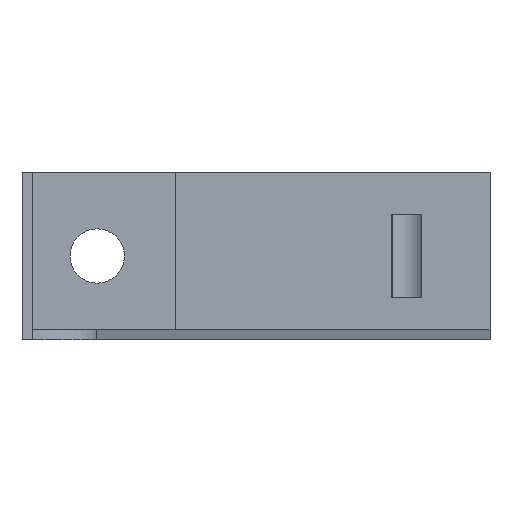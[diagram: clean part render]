
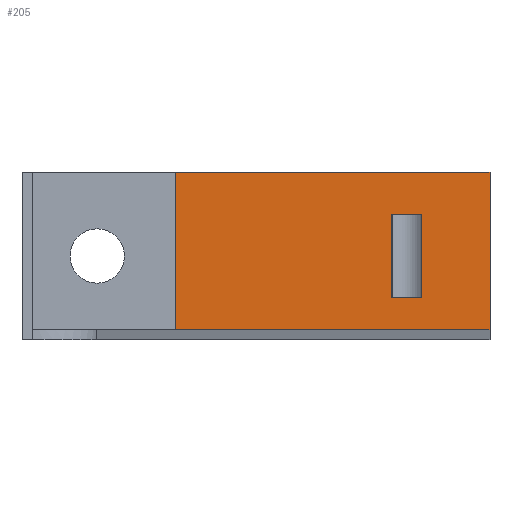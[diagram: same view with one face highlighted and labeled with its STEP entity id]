
A CAD part, left-side view. The second image highlights one B-rep face of the part: STEP entity #205.
In plain terms, the highlighted planar face has unit normal (-1, 0, 0).
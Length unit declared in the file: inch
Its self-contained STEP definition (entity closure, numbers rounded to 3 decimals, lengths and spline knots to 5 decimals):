
#205=ADVANCED_FACE('',(#425,#426),#427,.T.);
#425=FACE_OUTER_BOUND('',#953,.T.);
#426=FACE_BOUND('',#954,.T.);
#427=PLANE('',#955);
#953=EDGE_LOOP('',(#1428,#1429,#1430,#1431));
#954=EDGE_LOOP('',(#1432,#1433,#1434,#1435));
#955=AXIS2_PLACEMENT_3D('',#1436,#1437,#1438);
#1428=ORIENTED_EDGE('',*,*,#1625,.T.);
#1429=ORIENTED_EDGE('',*,*,#1640,.T.);
#1430=ORIENTED_EDGE('',*,*,#1632,.T.);
#1431=ORIENTED_EDGE('',*,*,#1660,.F.);
#1432=ORIENTED_EDGE('',*,*,#1572,.T.);
#1433=ORIENTED_EDGE('',*,*,#1593,.T.);
#1434=ORIENTED_EDGE('',*,*,#1693,.T.);
#1435=ORIENTED_EDGE('',*,*,#1588,.T.);
#1436=CARTESIAN_POINT('',(7.70277,-0.78633,0.0));
#1437=DIRECTION('',(-1.0,-0.0,0.0));
#1438=DIRECTION('',(0.0,-1.0,-0.0));
#1572=EDGE_CURVE('',#1891,#1889,#1892,.T.);
#1588=EDGE_CURVE('',#1914,#1891,#1915,.T.);
#1593=EDGE_CURVE('',#1889,#1920,#1922,.T.);
#1625=EDGE_CURVE('',#1967,#1965,#1968,.T.);
#1632=EDGE_CURVE('',#1976,#1974,#1977,.T.);
#1640=EDGE_CURVE('',#1965,#1976,#1986,.T.);
#1660=EDGE_CURVE('',#1967,#1974,#2010,.T.);
#1693=EDGE_CURVE('',#1920,#1914,#2049,.T.);
#1889=VERTEX_POINT('',#2438);
#1891=VERTEX_POINT('',#2441);
#1892=LINE('',#2442,#2443);
#1914=VERTEX_POINT('',#2485);
#1915=LINE('',#2486,#2487);
#1920=VERTEX_POINT('',#2494);
#1922=LINE('',#2497,#2498);
#1965=VERTEX_POINT('',#2574);
#1967=VERTEX_POINT('',#2577);
#1968=LINE('',#2578,#2579);
#1974=VERTEX_POINT('',#2587);
#1976=VERTEX_POINT('',#2590);
#1977=LINE('',#2591,#2592);
#1986=LINE('',#2607,#2608);
#2010=LINE('',#2655,#2656);
#2049=LINE('',#2737,#2738);
#2438=CARTESIAN_POINT('',(7.70277,-1.45091,0.3125));
#2441=CARTESIAN_POINT('',(7.70277,-1.45091,0.9375));
#2442=CARTESIAN_POINT('',(7.70277,-1.45091,0.3125));
#2443=VECTOR('',#2789,1.0);
#2485=CARTESIAN_POINT('',(7.70277,-1.22179,0.9375));
#2486=CARTESIAN_POINT('',(7.70277,-1.06134,0.9375));
#2487=VECTOR('',#2798,1.0);
#2494=CARTESIAN_POINT('',(7.70277,-1.22179,0.3125));
#2497=CARTESIAN_POINT('',(7.70277,-1.06134,0.3125));
#2498=VECTOR('',#2802,1.0);
#2574=CARTESIAN_POINT('',(7.70277,-1.96133,0.075));
#2577=CARTESIAN_POINT('',(7.70277,0.38868,0.075));
#2578=CARTESIAN_POINT('',(7.70277,-1.96133,0.075));
#2579=VECTOR('',#2822,1.0);
#2587=CARTESIAN_POINT('',(7.70277,0.38868,1.25));
#2590=CARTESIAN_POINT('',(7.70277,-1.96133,1.25));
#2591=CARTESIAN_POINT('',(7.70277,-1.96133,1.25));
#2592=VECTOR('',#2829,1.0);
#2607=CARTESIAN_POINT('',(7.70277,-1.96133,0.0));
#2608=VECTOR('',#2833,1.0);
#2655=CARTESIAN_POINT('',(7.70277,0.38868,0.0));
#2656=VECTOR('',#2839,1.0);
#2737=CARTESIAN_POINT('',(7.70277,-1.22179,0.3125));
#2738=VECTOR('',#2846,1.0);
#2789=DIRECTION('',(0.0,0.0,-1.0));
#2798=DIRECTION('',(0.0,-1.0,0.0));
#2802=DIRECTION('',(0.0,1.0,0.0));
#2822=DIRECTION('',(-0.0,-1.0,-0.0));
#2829=DIRECTION('',(0.0,1.0,0.0));
#2833=DIRECTION('',(0.0,0.0,1.0));
#2839=DIRECTION('',(0.0,0.0,1.0));
#2846=DIRECTION('',(0.0,0.0,1.0));
